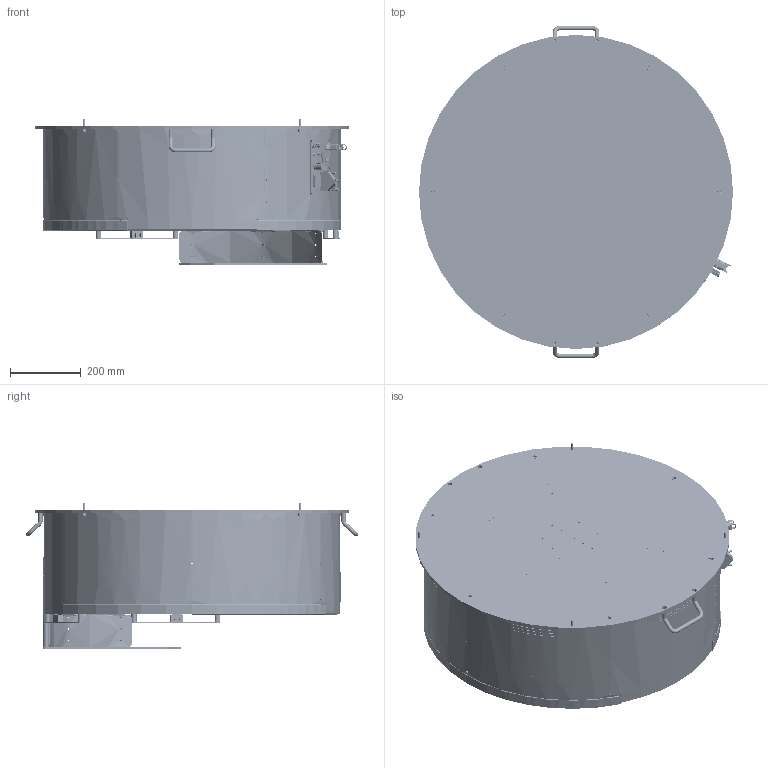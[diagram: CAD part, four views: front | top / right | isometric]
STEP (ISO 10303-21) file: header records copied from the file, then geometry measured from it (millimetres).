
FILE_DESCRIPTION (( 'STEP AP214' ), '1' );
FILE_NAME ('GM000117_FB800C V2.2 Quick Emptying.STEP', '2025-12-03T15:36:21', ( '' ), ( '' ), 'SwSTEP 2.0', 'SolidWorks 2023', '' );
FILE_SCHEMA (( 'AUTOMOTIVE_DESIGN' ));
Length unit declared in the file: millimetre
Products named in the file (87): CM000001; PD006118; PD001123; PD001360_FB800; Copia di Connettore te 2 poli - Copia^CE000463; CM000015_002; PD001101; PD001356; CM000015_001; CE000039; CE000420; Copia di connector_a-ds_25_pp-f^CE000463; PD001579; PD006117; PD001124; Copia di CE000325^CE000461; PD001119; Copia di Led RDY_FLT^CE000326; CM000686_001; CM000015; CE000419; PD001062_003; CM000008_001; CM000920; Copia di 1^CE000322; PD001063; CE000322; PD005625; Copia di CE000327^CE000327; CM000008_004; PD006119; CM000008_003; Copia di Guaina^CE000461; PD006084; CE000321; CM000099; CM000374; CE000005; Copia di 2 - Copia^CE000322; CM000064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
Assembly tree (119 placements, depth 3):
  CM000920
  GM000117_FB800C V2.2 Quick Emptying
    CE000327
      Copia di CE000327^CE000327
      Copia di 39-01-2025^CE000327
    CE000326
      Copia di Led RDY_FLT^CE000326
      Copia di 39-01-2045^CE000326
    CE000039
    CE000321
    CE000322
      Copia di 1^CE000322
      Copia di 2 - Copia (2)^CE000322
      Copia di 2 - Copia^CE000322  x4
    CE000461
      Copia di CE000325^CE000461
      Copia di 43025-0600^CE000461
      Copia di Guaina^CE000461
    CE000463
      Copia di connector_a-ds_25_pp-f^CE000463
      Copia di Connettore te 2 poli - Copia^CE000463
      Copia di 39-01-2025^CE000463
      Copia di 43025-1600^CE000463
      Copia di Guaina^CE000463
    CM000015  x2
      CM000015_001
      CM000015_002
    CM000424
    CM000099
    PD001086
    CM000001  x2
    PD003222  x6
    PD001569
    PD001356
    PD002027
    PD005625  x2
    PD005626  x2
    PD003221
    PD001062
      PD001062_001
      PD001062_002
      PD001062_003
    CM000374  x4
    PD001063
    PD000043  x4
    PD001123  x2
    PD001119  x2
    PD001124
    PD001122
    PD006081
    PD006084
    PD006074  x3
    PD001101
    PD001087
    PD003362
    PD000709
    PD001360_FB800
    CE000007
    CE000013  x2
    CE000005
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Bounding box: 890 x 940.65 x 412.9 mm (x, y, z)
Volume: 15000742.7 mm3; surface area: 5311487.9 mm2
Topology: 138 solids, 157 shells, 13823 faces, 36793 edges, 23726 vertices
Faces by surface type: plane 6626, cylinder 3852, bspline 1731, cone 1229, torus 324, sphere 61
Entity records: 555623 total; most frequent: CARTESIAN_POINT 254134, ORIENTED_EDGE 66614, DIRECTION 54568, EDGE_CURVE 33509, VERTEX_POINT 21884, AXIS2_PLACEMENT_3D 19239, VECTOR 16090, LINE 16090
